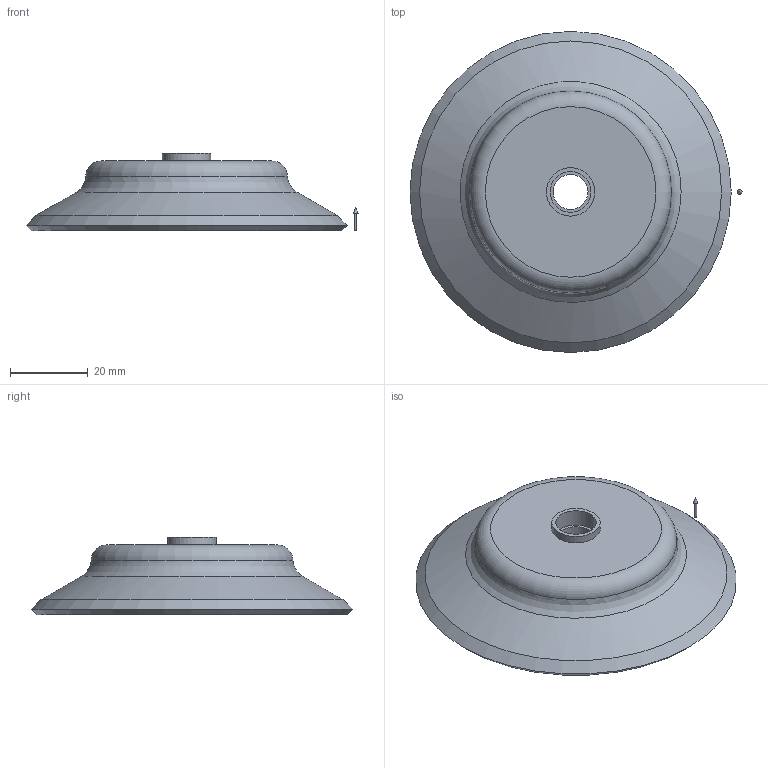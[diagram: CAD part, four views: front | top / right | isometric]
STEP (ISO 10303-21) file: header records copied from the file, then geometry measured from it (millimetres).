
FILE_DESCRIPTION(('STEP AP214'),'1');
FILE_NAME('CA.08.28.013.stp','2019-04-17T13:11:54',(' '),(' '),'Spatial InterOp 3D',' ',' ');
FILE_SCHEMA(('AUTOMOTIVE_DESIGN { 1 0 10303 214 1 1 1 1 }'));
Length unit declared in the file: millimetre
Products named in the file (1): 1
Bounding box: 85.61 x 82.83 x 20 mm (x, y, z)
Volume: 34035.1 mm3; surface area: 13120.2 mm2
Topology: 2 solids, 2 shells, 20 faces, 34 edges, 21 vertices
Faces by surface type: plane 7, cone 6, cylinder 5, torus 2
Full cylindrical faces by diameter (mm): 0.6 x1, 9 x1, 10.5 x1, 12.5 x1, 13.5 x1
Entity records: 644 total; most frequent: CARTESIAN_POINT 126, DIRECTION 80, AXIS2_PLACEMENT_3D 40, EDGE_LOOP 38, ORIENTED_EDGE 38, FACE_OUTER_BOUND 27, STYLED_ITEM 20, PRESENTATION_STYLE_ASSIGNMENT 20
